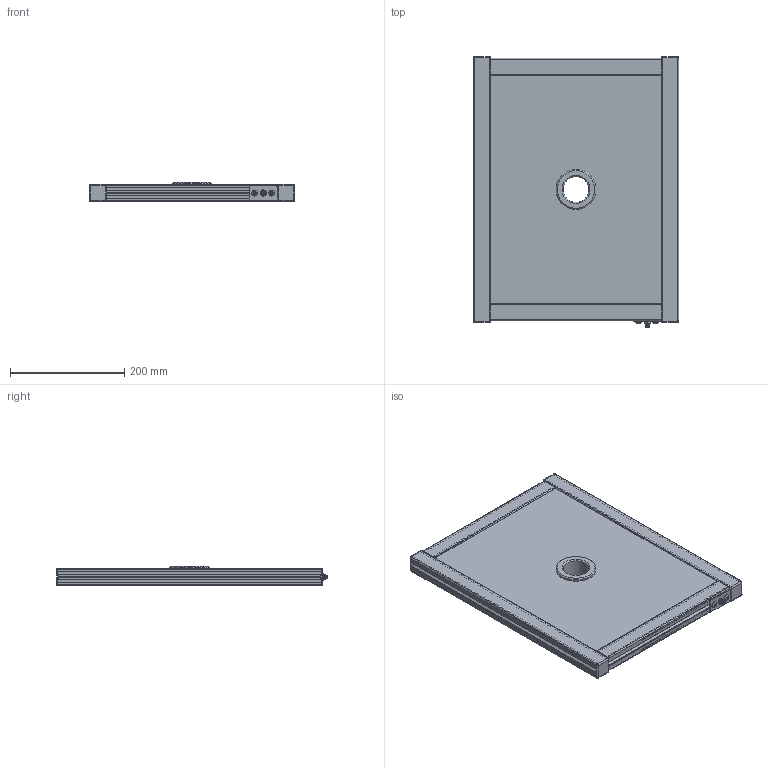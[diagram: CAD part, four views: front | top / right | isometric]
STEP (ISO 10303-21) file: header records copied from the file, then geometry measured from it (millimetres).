
FILE_DESCRIPTION (( 'STEP AP214' ), '1' );
FILE_NAME ('19027-STP01v01 - FL3040.STEP', '2019-10-01T21:08:45', ( '' ), ( '' ), 'SwSTEP 2.0', 'SolidWorks 2018', '' );
FILE_SCHEMA (( 'AUTOMOTIVE_DESIGN' ));
Length unit declared in the file: millimetre
Products named in the file (1): 19027-STP01v01 - FL3040
Bounding box: 360 x 475.01 x 33.6 mm (x, y, z)
Volume: 3708753.1 mm3; surface area: 755068.3 mm2
Topology: 1 solids, 21 shells, 810 faces, 2183 edges, 1395 vertices
Faces by surface type: plane 453, cylinder 299, cone 22, sphere 21, bspline 11, torus 4
Full cylindrical faces by diameter (mm): 1 x3, 5.8 x1, 6 x2, 6.5 x1, 6.9 x1, 10.5 x2, 45 x1, 70 x1, 74 x1
Entity records: 29126 total; most frequent: CARTESIAN_POINT 8092, DIRECTION 4257, ORIENTED_EDGE 4250, EDGE_CURVE 2125, AXIS2_PLACEMENT_3D 1437, VECTOR 1383, VERTEX_POINT 1383, LINE 1383
